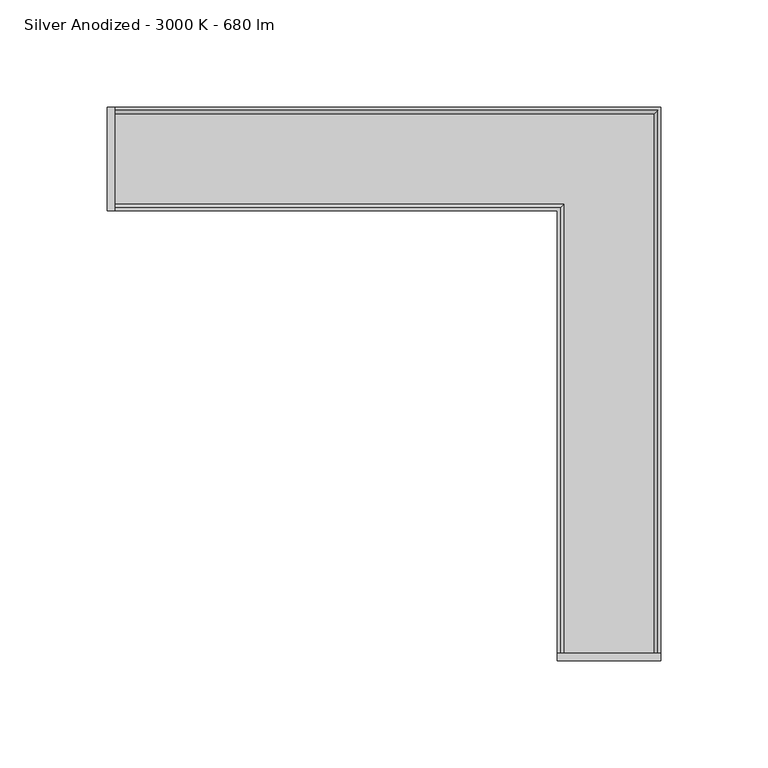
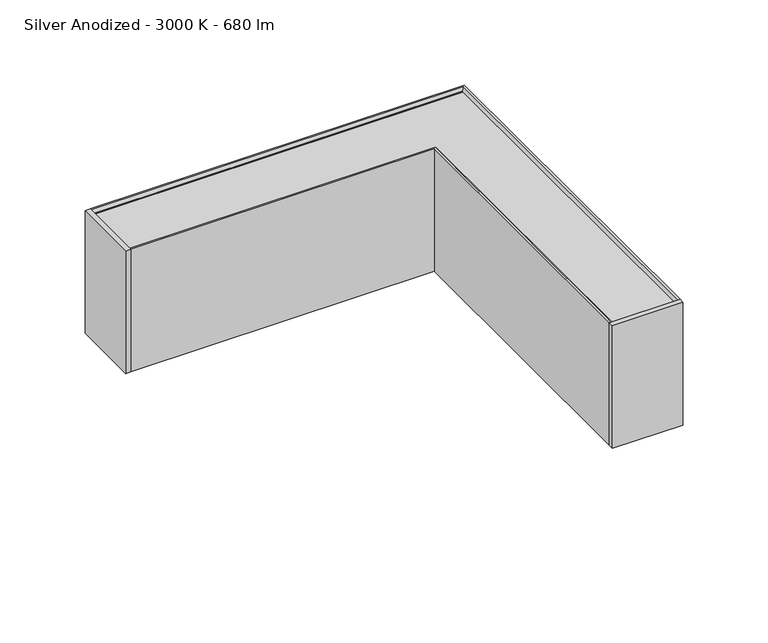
"""IFC4 building model written with IfcOpenShell, lengths in millimetres: light fixture geometry, KLUŚ - SERPENT - NT L90 : Silver Anodized - 3000 K - 680 lm."""

from ifc_helpers import new_model, si_unit, point, frame, frame_2d, origin, origin_with_axes, place, context, project, spatial, polyline, circle_curve, trimmed, segment, composite_curve, outline, extrude, faceted_brep, source, transform, mapped, element, save
from ifc_brep_helpers import plane_surface, revolved_surface, advanced_brep


def silver_anodized_3000_k_680_lm_58d030c8(model_context):
    return source(origin(), model_context, "Body", "SolidModel", [
        advanced_brep(
        [(111.0, -20.85, 0.8), (119.0, -20.85, 0.8), (119.0, -20.85, 0.0), (111.0, -20.85, 0.0), (101.0, -6.85, 0.0), (95.05, -6.85, 5.3344882), (95.05, -6.85, 14.5), (95.85, -6.85, 14.5), (95.85, -6.85, 5.691693), (101.3061136, -6.85, 0.8), (128.6938864, -6.85, 0.8), (134.15, -6.85, 5.691693), (134.15, -6.85, 14.5), (134.95, -6.85, 14.5), (134.95, -6.85, 5.3344882), (129.0, -6.85, 0.0), (101.0, -34.85, 0.0), (129.0, -34.85, 0.0), (134.95, -34.85, 5.3344882), (134.95, -34.85, 14.5), (134.15, -34.85, 14.5), (134.15, -34.85, 5.691693), (128.6938864, -34.85, 0.8), (101.3061136, -34.85, 0.8), (95.85, -34.85, 5.691693), (95.85, -34.85, 14.5), (95.05, -34.85, 14.5), (95.05, -34.85, 5.3344882)],
        [
            (0, 1, circle_curve(frame((115.0, -20.85, 0.8), z_axis=(0.0, 0.0, 1.0), x_axis=(-1.0, 0.0, 0.0)), 4.0)),
            (1, 2),
            (2, 3, circle_curve(frame((115.0, -20.85, 0.0), z_axis=(0.0, 0.0, -1.0), x_axis=(-1.0, 0.0, 0.0)), 4.0)),
            (3, 0),
            (3, 2, circle_curve(frame((115.0, -20.85, 0.0), z_axis=(0.0, 0.0, -1.0), x_axis=(-1.0, 0.0, 0.0)), 4.0)),
            (1, 0, circle_curve(frame((115.0, -20.85, 0.8), z_axis=(0.0, 0.0, 1.0), x_axis=(-1.0, 0.0, 0.0)), 4.0)),
            (4, 5),
            (5, 6),
            (6, 7),
            (7, 8),
            (8, 9),
            (9, 10),
            (10, 11),
            (11, 12),
            (12, 13),
            (13, 14),
            (14, 15),
            (15, 4),
            (16, 17),
            (17, 18),
            (18, 19),
            (19, 20),
            (20, 21),
            (21, 22),
            (22, 23),
            (23, 24),
            (24, 25),
            (25, 26),
            (26, 27),
            (27, 16),
            (15, 17),
            (16, 4),
            (14, 18),
            (13, 19),
            (12, 20),
            (11, 21),
            (10, 22),
            (9, 23),
            (8, 24),
            (7, 25),
            (6, 26),
            (5, 27),
        ],
        [
            revolved_surface(polyline([(111.0, -20.85, 0.8), (111.0, -20.85, 0.0)]), (115.0, -20.85, 0.0), (0.0, 0.0, 1.0)),
            plane_surface(frame((115.0, -6.85, 0.0), z_axis=(0.0, 1.0, 0.0), x_axis=(0.0, 0.0, 1.0))),
            plane_surface(frame((115.0, -34.85, 0.0), z_axis=(0.0, -1.0, 0.0), x_axis=(0.0, 0.0, 1.0))),
            plane_surface(frame((101.0, -6.85, 0.0), z_axis=(0.0, 0.0, -1.0), x_axis=(0.0, -1.0, 0.0))),
            plane_surface(frame((129.0, -6.85, 0.0), z_axis=(0.6675453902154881, 0.0, -0.744569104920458), x_axis=(0.0, -1.0, 0.0))),
            plane_surface(frame((134.95, -6.85, 5.3344882), z_axis=(1.0, 0.0, 0.0), x_axis=(0.0, -1.0, 0.0))),
            plane_surface(frame((134.95, -6.85, 14.5), z_axis=(0.0, 0.0, 1.0), x_axis=(0.0, -1.0, 0.0))),
            plane_surface(frame((134.15, -6.85, 14.5), z_axis=(-1.0, 0.0, 0.0), x_axis=(0.0, -1.0, 0.0))),
            plane_surface(frame((134.15, -6.85, 5.691693), z_axis=(-0.6675453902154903, 0.0, 0.7445691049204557), x_axis=(0.0, -1.0, 0.0))),
            plane_surface(frame((128.6938864, -6.85, 0.8), z_axis=(0.0, 0.0, 1.0), x_axis=(0.0, -1.0, 0.0))),
            plane_surface(frame((101.3061136, -6.85, 0.8), z_axis=(0.6675453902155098, 0.0, 0.7445691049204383), x_axis=(0.0, -1.0, 0.0))),
            plane_surface(frame((95.85, -6.85, 5.691693), z_axis=(1.0, 0.0, 0.0), x_axis=(0.0, -1.0, 0.0))),
            plane_surface(frame((95.85, -6.85, 14.5), z_axis=(0.0, 0.0, 1.0), x_axis=(0.0, -1.0, 0.0))),
            plane_surface(frame((95.05, -6.85, 14.5), z_axis=(-1.0, 0.0, 0.0), x_axis=(0.0, -1.0, 0.0))),
            plane_surface(frame((95.05, -6.85, 5.3344882), z_axis=(-0.6675453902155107, 0.0, -0.7445691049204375), x_axis=(0.0, -1.0, 0.0))),
        ],
        [
            (0, [[1, 2, 3, 4]]),
            (0, [[5, -2, 6, -4]]),
            (1, [[7, 8, 9, 10, 11, 12, 13, 14, 15, 16, 17, 18]]),
            (2, [[19, 20, 21, 22, 23, 24, 25, 26, 27, 28, 29, 30]]),
            (3, [[31, -19, 32, -18], [-5, -3]]),
            (4, [[33, -20, -31, -17]]),
            (5, [[34, -21, -33, -16]]),
            (6, [[35, -22, -34, -15]]),
            (7, [[36, -23, -35, -14]]),
            (8, [[37, -24, -36, -13]]),
            (9, [[38, -25, -37, -12], [-6, -1]]),
            (10, [[39, -26, -38, -11]]),
            (11, [[40, -27, -39, -10]]),
            (12, [[41, -28, -40, -9]]),
            (13, [[42, -29, -41, -8]]),
            (14, [[-32, -30, -42, -7]]),
        ],
    ),
        extrude(outline(polyline([(139.0, -118.5), (91.0, -118.5), (91.0, -115.0), (139.0, -115.0), (139.0, -118.5)])), frame((0.0, 0.0, 5.0), z_axis=(0.0, 0.0, 1.0), x_axis=(1.0, 0.0, 0.0)), (0.0, 0.0, 1.0), 88.0),
        extrude(outline(polyline([(-118.5, 91.0), (-118.5, 139.0), (-115.0, 139.0), (-115.0, 91.0), (-118.5, 91.0)])), frame((0.0, 0.0, 5.0), z_axis=(0.0, 0.0, 1.0), x_axis=(1.0, 0.0, 0.0)), (0.0, 0.0, 1.0), 88.0),
        advanced_brep(
        [(-21.0, 111.15, 0.8), (-21.0, 111.15, 0.0), (-21.0, 119.15, 0.0), (-21.0, 119.15, 0.8), (-7.0, 101.15, 0.0), (-7.0, 129.15, 0.0), (-7.0, 135.1, 5.3344882), (-7.0, 135.1, 14.5), (-7.0, 134.3, 14.5), (-7.0, 134.3, 5.691693), (-7.0, 128.8438864, 0.8), (-7.0, 101.4561136, 0.8), (-7.0, 96.0, 5.691693), (-7.0, 96.0, 14.5), (-7.0, 95.2, 14.5), (-7.0, 95.2, 5.3344882), (-35.0, 101.15, 0.0), (-35.0, 95.2, 5.3344882), (-35.0, 95.2, 14.5), (-35.0, 96.0, 14.5), (-35.0, 96.0, 5.691693), (-35.0, 101.4561136, 0.8), (-35.0, 128.8438864, 0.8), (-35.0, 134.3, 5.691693), (-35.0, 134.3, 14.5), (-35.0, 135.1, 14.5), (-35.0, 135.1, 5.3344882), (-35.0, 129.15, 0.0)],
        [
            (0, 1),
            (1, 2, circle_curve(frame((-21.0, 115.15, 0.0), z_axis=(0.0, 0.0, -1.0), x_axis=(0.0, -1.0, 0.0)), 4.0)),
            (2, 3),
            (3, 0, circle_curve(frame((-21.0, 115.15, 0.8), z_axis=(0.0, 0.0, 1.0), x_axis=(0.0, -1.0, 0.0)), 4.0)),
            (0, 3, circle_curve(frame((-21.0, 115.15, 0.8), z_axis=(0.0, 0.0, 1.0), x_axis=(0.0, -1.0, 0.0)), 4.0)),
            (2, 1, circle_curve(frame((-21.0, 115.15, 0.0), z_axis=(0.0, 0.0, -1.0), x_axis=(0.0, -1.0, 0.0)), 4.0)),
            (4, 5),
            (5, 6),
            (6, 7),
            (7, 8),
            (8, 9),
            (9, 10),
            (10, 11),
            (11, 12),
            (12, 13),
            (13, 14),
            (14, 15),
            (15, 4),
            (16, 17),
            (17, 18),
            (18, 19),
            (19, 20),
            (20, 21),
            (21, 22),
            (22, 23),
            (23, 24),
            (24, 25),
            (25, 26),
            (26, 27),
            (27, 16),
            (4, 16),
            (27, 5),
            (26, 6),
            (25, 7),
            (24, 8),
            (23, 9),
            (22, 10),
            (21, 11),
            (20, 12),
            (19, 13),
            (18, 14),
            (17, 15),
        ],
        [
            revolved_surface(polyline([(-21.0, 111.15, 0.8), (-21.0, 111.15, 0.0)]), (-21.0, 115.15, 0.0), (0.0, 0.0, 1.0)),
            plane_surface(frame((-7.0, 115.15, 0.0), z_axis=(1.0, 0.0, 0.0), x_axis=(0.0, 0.0, 1.0))),
            plane_surface(frame((-35.0, 115.15, 0.0), z_axis=(-1.0, 0.0, 0.0), x_axis=(0.0, 0.0, 1.0))),
            plane_surface(frame((-7.0, 101.15, 0.0), z_axis=(0.0, 0.0, -1.0), x_axis=(-1.0, 0.0, 0.0))),
            plane_surface(frame((-7.0, 129.15, 0.0), z_axis=(0.0, 0.6675453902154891, -0.744569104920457), x_axis=(-1.0, 0.0, 0.0))),
            plane_surface(frame((-7.0, 135.1, 5.3344882), z_axis=(0.0, 1.0, 0.0), x_axis=(-1.0, 0.0, 0.0))),
            plane_surface(frame((-7.0, 135.1, 14.5), z_axis=(0.0, 0.0, 1.0), x_axis=(-1.0, 0.0, 0.0))),
            plane_surface(frame((-7.0, 134.3, 14.5), z_axis=(0.0, -1.0, 0.0), x_axis=(-1.0, 0.0, 0.0))),
            plane_surface(frame((-7.0, 134.3, 5.691693), z_axis=(0.0, -0.6675453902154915, 0.7445691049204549), x_axis=(-1.0, 0.0, 0.0))),
            plane_surface(frame((-7.0, 128.8438864, 0.8), z_axis=(0.0, 0.0, 1.0), x_axis=(-1.0, 0.0, 0.0))),
            plane_surface(frame((-7.0, 101.4561136, 0.8), z_axis=(0.0, 0.6675453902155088, 0.7445691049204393), x_axis=(-1.0, 0.0, 0.0))),
            plane_surface(frame((-7.0, 96.0, 5.691693), z_axis=(0.0, 1.0, 0.0), x_axis=(-1.0, 0.0, 0.0))),
            plane_surface(frame((-7.0, 96.0, 14.5), z_axis=(0.0, 0.0, 1.0), x_axis=(-1.0, 0.0, 0.0))),
            plane_surface(frame((-7.0, 95.2, 14.5), z_axis=(0.0, -1.0, 0.0), x_axis=(-1.0, 0.0, 0.0))),
            plane_surface(frame((-7.0, 95.2, 5.3344882), z_axis=(0.0, -0.6675453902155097, -0.7445691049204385), x_axis=(-1.0, 0.0, 0.0))),
        ],
        [
            (0, [[1, 2, 3, 4]]),
            (0, [[-1, 5, -3, 6]]),
            (1, [[7, 8, 9, 10, 11, 12, 13, 14, 15, 16, 17, 18]]),
            (2, [[19, 20, 21, 22, 23, 24, 25, 26, 27, 28, 29, 30]]),
            (3, [[-7, 31, -30, 32], [-2, -6]]),
            (4, [[-8, -32, -29, 33]]),
            (5, [[-9, -33, -28, 34]]),
            (6, [[-10, -34, -27, 35]]),
            (7, [[-11, -35, -26, 36]]),
            (8, [[-12, -36, -25, 37]]),
            (9, [[-13, -37, -24, 38], [-4, -5]]),
            (10, [[-14, -38, -23, 39]]),
            (11, [[-15, -39, -22, 40]]),
            (12, [[-16, -40, -21, 41]]),
            (13, [[-17, -41, -20, 42]]),
            (14, [[-18, -42, -19, -31]]),
        ],
    ),
        faceted_brep([(-115.0, 95.05, 5.0), (-115.0, 91.0, 5.0), (-115.0, 91.0, 93.0), (-115.0, 92.35, 93.0), (-115.0, 93.8950868, 91.1989148), (-115.0, 92.35, 89.5), (-115.0, 92.35, 13.7), (-115.0, 95.05, 13.7), (95.05, -115.0, 5.0), (95.05, -115.0, 13.7), (92.35, -115.0, 13.7), (92.35, -115.0, 89.5), (93.8950868, -115.0, 91.1989148), (92.35, -115.0, 93.0), (91.0, -115.0, 93.0), (91.0, -115.0, 5.0), (95.05, 95.05, 5.0), (91.0, 91.0, 5.0), (91.0, 91.0, 93.0), (92.35, 92.35, 93.0), (93.8950868, 93.8950868, 91.1989148), (92.35, 92.35, 89.5), (92.35, 92.35, 13.7), (95.05, 95.05, 13.7)], [[[0, 1, 2, 3, 4, 5, 6, 7]], [[8, 9, 10, 11, 12, 13, 14, 15]], [[1, 0, 16, 8, 15, 17]], [[2, 1, 17, 18]], [[3, 2, 18, 14, 13, 19]], [[4, 3, 19, 20]], [[5, 4, 20, 21]], [[6, 5, 21, 22]], [[7, 6, 22, 10, 9, 23]], [[0, 7, 23, 16]], [[18, 17, 15, 14]], [[20, 19, 13, 12]], [[21, 20, 12, 11]], [[22, 21, 11, 10]], [[16, 23, 9, 8]]]),
        faceted_brep([(-115.0, 134.95, 5.0), (-115.0, 134.95, 13.7), (-115.0, 137.65, 13.7), (-115.0, 137.65, 89.5), (-115.0, 136.15, 91.2514719), (-115.0, 137.65, 93.0), (-115.0, 139.0, 93.0), (-115.0, 139.0, 5.0), (134.95, -115.0, 5.0), (139.0, -115.0, 5.0), (139.0, -115.0, 93.0), (137.65, -115.0, 93.0), (136.15, -115.0, 91.2514719), (137.65, -115.0, 89.5), (137.65, -115.0, 13.7), (134.95, -115.0, 13.7), (134.95, 134.95, 5.0), (134.95, 134.95, 13.7), (137.65, 137.65, 13.7), (137.65, 137.65, 89.5), (136.15, 136.15, 91.2514719), (137.65, 137.65, 93.0), (139.0, 139.0, 93.0), (139.0, 139.0, 5.0)], [[[0, 1, 2, 3, 4, 5, 6, 7]], [[8, 9, 10, 11, 12, 13, 14, 15]], [[1, 0, 16, 17]], [[2, 1, 17, 15, 14, 18]], [[3, 2, 18, 19]], [[4, 3, 19, 20]], [[5, 4, 20, 21]], [[6, 5, 21, 11, 10, 22]], [[7, 6, 22, 23]], [[0, 7, 23, 9, 8, 16]], [[17, 16, 8, 15]], [[19, 18, 14, 13]], [[20, 19, 13, 12]], [[21, 20, 12, 11]], [[23, 22, 10, 9]]]),
        extrude(outline(composite_curve([segment(trimmed(circle_curve(frame_2d((115.0, -59.85)), 2.5), [point((117.5, -59.85))], [point((112.5, -59.85))], False, "CARTESIAN"), True, "CONTINUOUS"), segment(trimmed(circle_curve(frame_2d((115.0, -59.85)), 2.5), [point((112.5, -59.85))], [point((117.5, -59.85))], False, "CARTESIAN"), True, "CONTINUOUS")], self_intersect=False)), origin_with_axes(), (0.0, 0.0, 1.0), 24.0),
        extrude(outline(polyline([(-115.0, 92.35), (-115.0, 137.65), (137.65, 137.65), (137.65, -115.0), (92.35, -115.0), (92.35, 92.35), (-115.0, 92.35)])), frame((0.0, 0.0, 88.0), z_axis=(0.0, 0.0, 1.0), x_axis=(1.0, 0.0, 0.0)), (0.0, 0.0, 1.0), 1.5),
        extrude(outline(polyline([(-115.0, 92.35), (-115.0, 137.65), (137.65, 137.65), (137.65, -115.0), (92.35, -115.0), (92.35, 92.35), (-115.0, 92.35)])), frame((0.0, 0.0, 24.0), z_axis=(0.0, 0.0, 1.0), x_axis=(1.0, 0.0, 0.0)), (0.0, 0.0, 1.0), 2.0),
        extrude(outline(polyline([(-115.0, 92.35), (-115.0, 137.65), (137.65, 137.65), (137.65, -115.0), (92.35, -115.0), (92.35, 92.35), (-115.0, 92.35)])), frame((0.0, 0.0, 59.5), z_axis=(0.0, 0.0, 1.0), x_axis=(1.0, 0.0, 0.0)), (0.0, 0.0, 1.0), 1.5),
    ])


if __name__ == "__main__":
    model = new_model("IFC4")
    model_context = context("Model", 3, world=origin())
    ifc_project = project(units=[si_unit("LENGTHUNIT", "METRE", prefix="MILLI")], contexts=[model_context])
    site = spatial("IfcSite", under=ifc_project)
    building = spatial("IfcBuilding", under=site)
    placement = place(None, origin())
    silver_anodized_3000_k_680_lm_shape = silver_anodized_3000_k_680_lm_58d030c8(model_context)
    element("IfcLightFixture", 1, ObjectType="KLUŚ - SERPENT - NT L90 : Silver Anodized - 3000 K - 680 lm", at=placement, inside=building, context=model_context, shape_type="MappedRepresentation", body=[
        mapped(silver_anodized_3000_k_680_lm_shape, transform((0.0, 0.0, 0.0), x_axis=(1.0, 0.0, 0.0), y_axis=(0.0, 1.0, 0.0), z_axis=(0.0, 0.0, 1.0))),
    ])
    save(model, "model.ifc")
